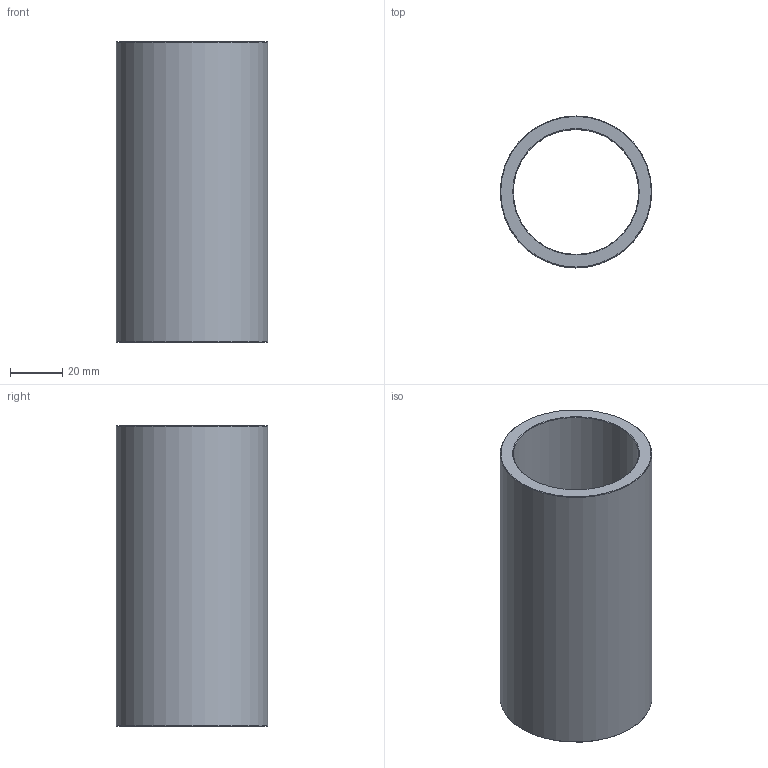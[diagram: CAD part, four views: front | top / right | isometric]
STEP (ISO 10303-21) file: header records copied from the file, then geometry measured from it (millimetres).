
FILE_DESCRIPTION(('STEP AP203'),'1');
FILE_NAME('C:/Users/Rodrigo/Desktop/GA5.048.115-1.step','2016-11-07T20:09:03',(' '),(' '),'Spatial InterOp 3D',' ',' ');
FILE_SCHEMA(('CONFIG_CONTROL_DESIGN'));
Length unit declared in the file: millimetre
Products named in the file (1): 1
Bounding box: 58 x 58 x 115 mm (x, y, z)
Volume: 95726.7 mm3; surface area: 39883 mm2
Topology: 1 solids, 1 shells, 8 faces, 14 edges, 8 vertices
Faces by surface type: cone 4, cylinder 2, plane 2
Full cylindrical faces by diameter (mm): 48 x1, 58 x1
Entity records: 212 total; most frequent: DIRECTION 34, CARTESIAN_POINT 25, AXIS2_PLACEMENT_3D 17, EDGE_LOOP 16, ORIENTED_EDGE 16, FACE_OUTER_BOUND 10, ADVANCED_FACE 8, EDGE_CURVE 8
